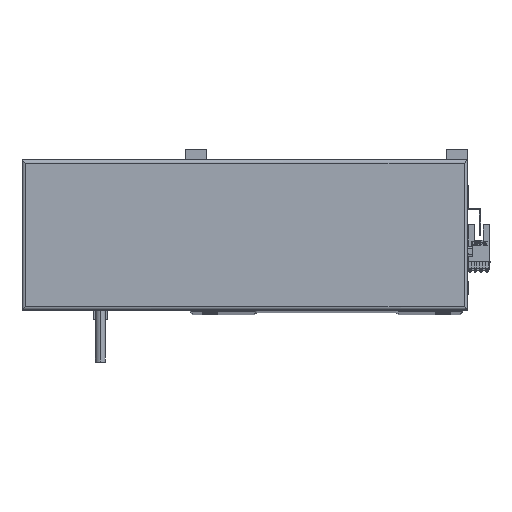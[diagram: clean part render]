
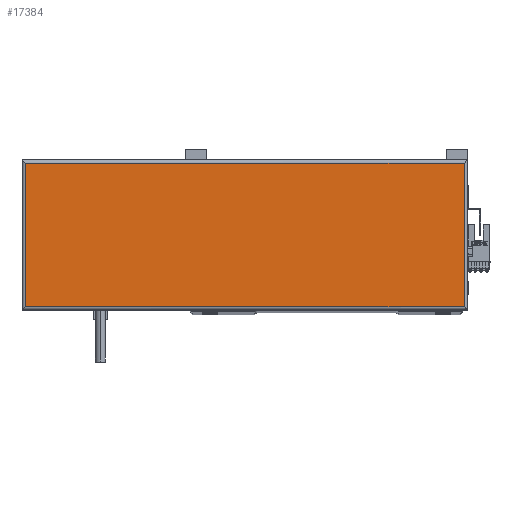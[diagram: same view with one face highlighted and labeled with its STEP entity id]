
A CAD part, top view. The second image highlights one B-rep face of the part: STEP entity #17384.
In plain terms, the highlighted planar face has unit normal (0, 0, 1).
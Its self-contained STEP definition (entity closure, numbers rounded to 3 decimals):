
#78 = CARTESIAN_POINT ( 'NONE',  ( 2., 2., 44.8 ) ) ;
#1753 = ORIENTED_EDGE ( 'NONE', *, *, #16437, .T. ) ;
#1925 = CARTESIAN_POINT ( 'NONE',  ( 2., 88., 44.8 ) ) ;
#2970 = CARTESIAN_POINT ( 'NONE',  ( 2., 0., 44.8 ) ) ;
#6071 = DIRECTION ( 'NONE',  ( 0., 1., 0. ) ) ;
#7241 = DIRECTION ( 'NONE',  ( -1., 0., 0. ) ) ;
#8620 = ORIENTED_EDGE ( 'NONE', *, *, #19540, .T. ) ;
#9240 = EDGE_CURVE ( 'NONE', #36098, #16855, #41626, .T. ) ;
#9476 = LINE ( 'NONE', #2970, #45638 ) ;
#11268 = CARTESIAN_POINT ( 'NONE',  ( 265., 2., 44.8 ) ) ;
#11807 = DIRECTION ( 'NONE',  ( 1., 0., 0. ) ) ;
#12454 = CARTESIAN_POINT ( 'NONE',  ( 265., 88., 44.8 ) ) ;
#14130 = VERTEX_POINT ( 'NONE', #12454 ) ;
#15826 = EDGE_CURVE ( 'NONE', #14130, #22482, #34020, .T. ) ;
#16437 = EDGE_CURVE ( 'NONE', #16855, #14130, #23294, .T. ) ;
#16855 = VERTEX_POINT ( 'NONE', #11268 ) ;
#17359 = FACE_OUTER_BOUND ( 'NONE', #37642, .T. ) ;
#17384 = ADVANCED_FACE ( 'NONE', ( #17359 ), #46428, .T. ) ;
#19540 = EDGE_CURVE ( 'NONE', #22482, #36098, #9476, .T. ) ;
#22071 = ORIENTED_EDGE ( 'NONE', *, *, #9240, .T. ) ;
#22482 = VERTEX_POINT ( 'NONE', #1925 ) ;
#23294 = LINE ( 'NONE', #24904, #27392 ) ;
#23739 = DIRECTION ( 'NONE',  ( 0., 0., 1. ) ) ;
#24904 = CARTESIAN_POINT ( 'NONE',  ( 265., 90., 44.8 ) ) ;
#25608 = VECTOR ( 'NONE', #37520, 1000. ) ;
#27392 = VECTOR ( 'NONE', #6071, 1000. ) ;
#29213 = CARTESIAN_POINT ( 'NONE',  ( 0., 88., 44.8 ) ) ;
#29355 = DIRECTION ( 'NONE',  ( 0., -1., 0. ) ) ;
#30821 = CARTESIAN_POINT ( 'NONE',  ( 133.5, 45., 44.8 ) ) ;
#33543 = CARTESIAN_POINT ( 'NONE',  ( 267., 2., 44.8 ) ) ;
#34020 = LINE ( 'NONE', #29213, #48825 ) ;
#35310 = AXIS2_PLACEMENT_3D ( 'NONE', #30821, #23739, #11807 ) ;
#36098 = VERTEX_POINT ( 'NONE', #78 ) ;
#37520 = DIRECTION ( 'NONE',  ( 1., 0., 0. ) ) ;
#37642 = EDGE_LOOP ( 'NONE', ( #1753, #44869, #8620, #22071 ) ) ;
#41626 = LINE ( 'NONE', #33543, #25608 ) ;
#44869 = ORIENTED_EDGE ( 'NONE', *, *, #15826, .T. ) ;
#45638 = VECTOR ( 'NONE', #29355, 1000. ) ;
#46428 = PLANE ( 'NONE',  #35310 ) ;
#48825 = VECTOR ( 'NONE', #7241, 1000. ) ;
